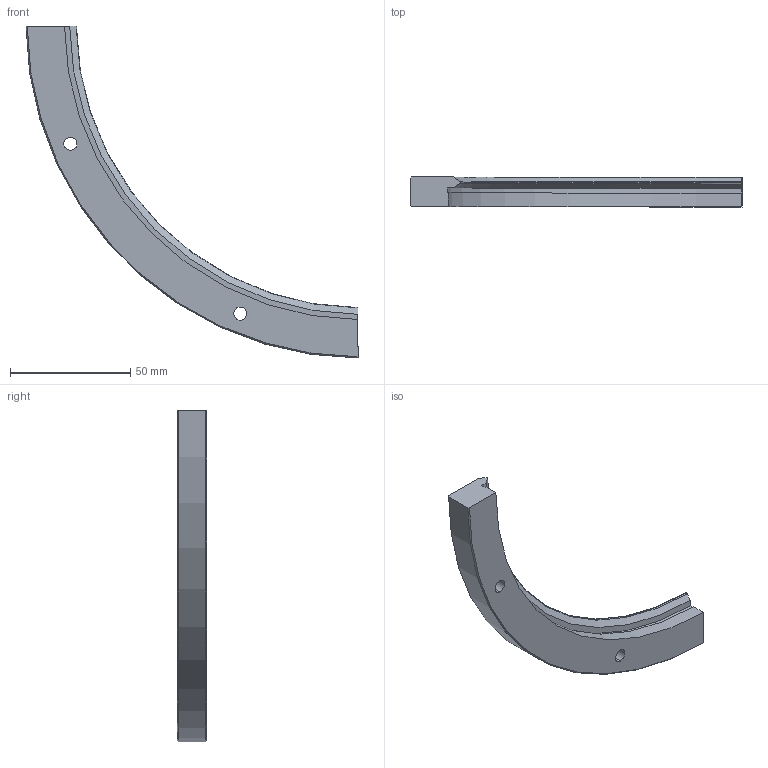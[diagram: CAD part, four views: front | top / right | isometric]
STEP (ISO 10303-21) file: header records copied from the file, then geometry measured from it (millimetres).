
FILE_DESCRIPTION(('STEP AP203'),'1');
FILE_NAME('ris_278_r90.stp','2021-08-04T12:44:27',('TraceParts'),('TraceParts S.A.'),'Spatial InterOp 3D',' ',' ');
FILE_SCHEMA(('CONFIG_CONTROL_DESIGN'));
Length unit declared in the file: millimetre
Products named in the file (1): 1
Bounding box: 138 x 12.25 x 138 mm (x, y, z)
Volume: 41672 mm3; surface area: 13826.6 mm2
Topology: 1 solids, 1 shells, 25 faces, 63 edges, 42 vertices
Faces by surface type: cylinder 11, plane 8, cone 4, torus 2
Entity records: 838 total; most frequent: CARTESIAN_POINT 175, DIRECTION 132, ORIENTED_EDGE 126, EDGE_CURVE 63, AXIS2_PLACEMENT_3D 55, VERTEX_POINT 42, EDGE_LOOP 31, CIRCLE 29
